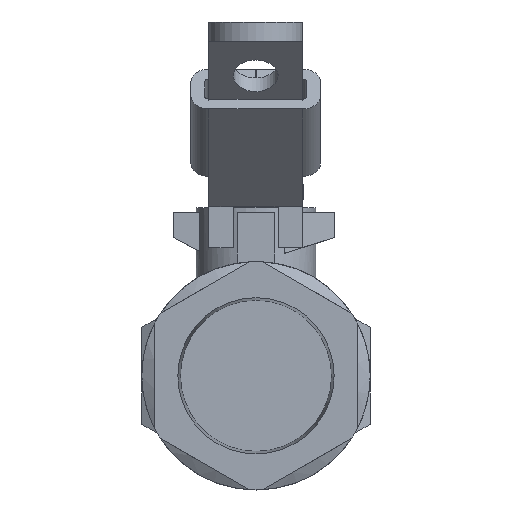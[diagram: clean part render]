
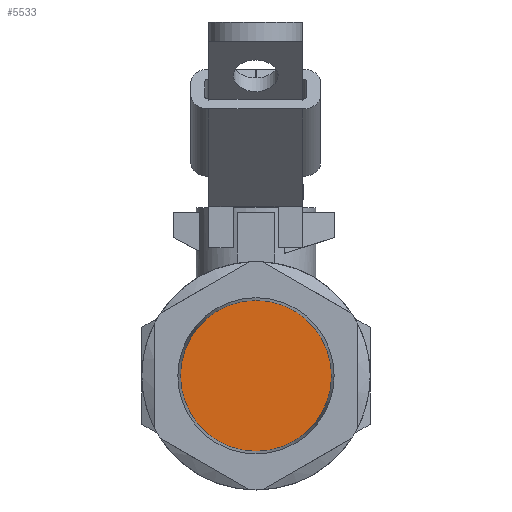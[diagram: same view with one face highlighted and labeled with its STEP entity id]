
A CAD part, left-side view. The second image highlights one B-rep face of the part: STEP entity #5533.
In plain terms, the highlighted free-form (B-spline) face has degree [1, 1] with [2, 2] control points.
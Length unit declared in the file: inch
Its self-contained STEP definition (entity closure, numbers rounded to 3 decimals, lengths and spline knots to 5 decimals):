
#5517=CARTESIAN_POINT('',(0.6609,0.59867,0.59866));
#5518=CARTESIAN_POINT('',(0.6609,-0.59866,0.59866));
#5519=CARTESIAN_POINT('',(0.6609,0.59867,-0.59866));
#5520=CARTESIAN_POINT('',(0.6609,-0.59866,-0.59866));
#5521=B_SPLINE_SURFACE_WITH_KNOTS('',1,1,((#5517,#5519),(#5518,#5520)),.UNSPECIFIED.,.F.,.F.,.U.,(2,2),(2,2),(0.0,1.19733),(0.0,1.19733),.UNSPECIFIED.);
#5522=CARTESIAN_POINT('',(0.6609,0.59867,0.0));
#5523=VERTEX_POINT('',#5522);
#5524=CARTESIAN_POINT('',(0.6609,0.0,0.0));
#5525=DIRECTION('',(1.0,0.0,0.0));
#5526=DIRECTION('',(0.0,1.0,0.0));
#5527=AXIS2_PLACEMENT_3D('',#5524,#5525,#5526);
#5528=CIRCLE('',#5527,0.59866);
#5529=EDGE_CURVE('',#5523,#5523,#5528,.T.);
#5530=ORIENTED_EDGE('',*,*,#5529,.F.);
#5531=EDGE_LOOP('',(#5530));
#5532=FACE_OUTER_BOUND('',#5531,.T.);
#5533=ADVANCED_FACE('',(#5532),#5521,.F.);
